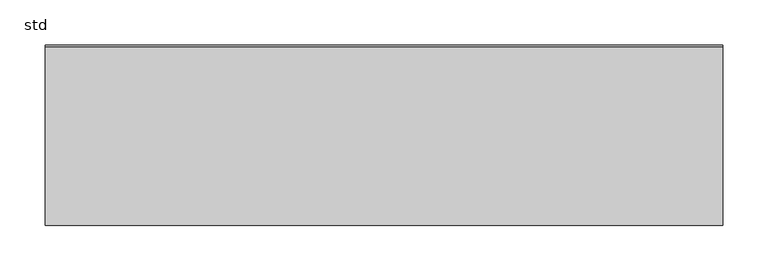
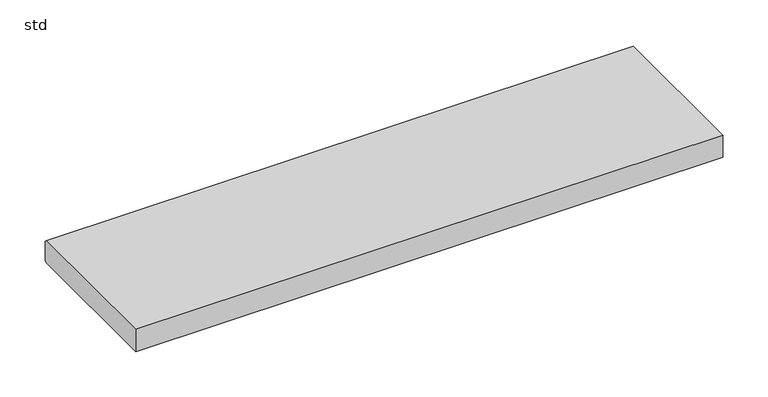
"""IFC4 building model written with IfcOpenShell, lengths in millimetres: proxy geometry, 400_35_NS_vensterbank_variabel : std."""

from ifc_helpers import new_model, si_unit, frame, origin, place, context, project, spatial, polyline, outline, extrude, source, transform, mapped, element, save


def std_f1861b5c(model_context):
    return source(origin(), model_context, "Body", "SweptSolid", [
        extrude(outline(polyline([(0.0, 0.0), (0.0, 30.0), (198.0, 30.0), (200.0, 28.0), (200.0, 2.0), (198.0, 0.0), (0.0, 0.0)])), frame((-375.0, 0.0, 0.0), z_axis=(1.0, 0.0, 0.0), x_axis=(0.0, 1.0, 0.0)), (0.0, 0.0, 1.0), 750.0),
    ])


if __name__ == "__main__":
    model = new_model("IFC4")
    model_context = context("Model", 3, world=origin())
    ifc_project = project(units=[si_unit("LENGTHUNIT", "METRE", prefix="MILLI")], contexts=[model_context])
    site = spatial("IfcSite", under=ifc_project)
    building = spatial("IfcBuilding", under=site)
    placement = place(None, origin())
    std_shape = std_f1861b5c(model_context)
    element("IfcBuildingElementProxy", 1, Name="400_35_NS_vensterbank_variabel : std", ObjectType="400_35_NS_vensterbank_variabel : std", at=placement, inside=building, context=model_context, shape_type="MappedRepresentation", body=[
        mapped(std_shape, transform((0.0, 0.0, 0.0), x_axis=(1.0, 0.0, 0.0), y_axis=(0.0, 1.0, 0.0), z_axis=(0.0, 0.0, 1.0))),
    ])
    save(model, "model.ifc")
